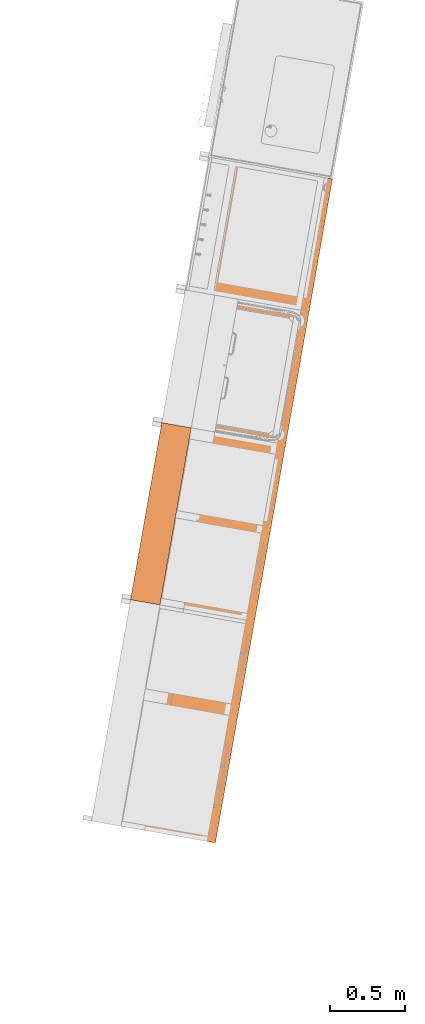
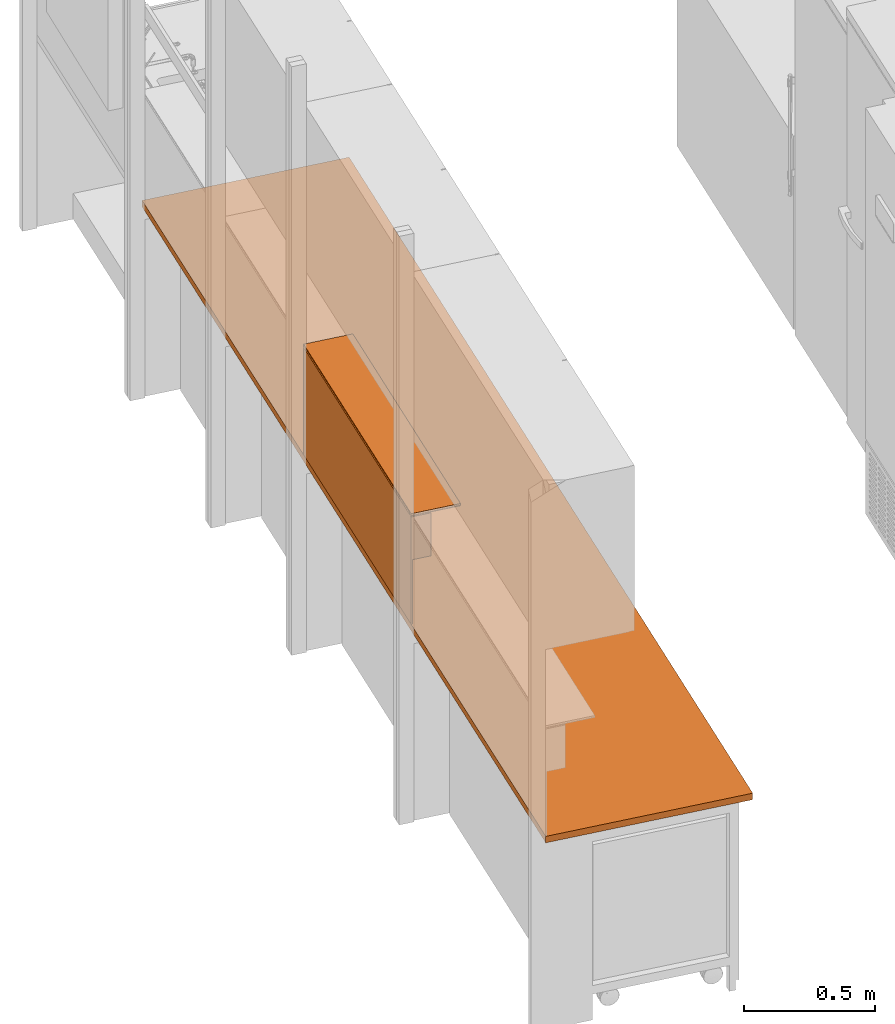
# One storey, part 13 of 43: 2 proxies.
"""IFC2X3 building model written with IfcOpenShell, lengths in metres."""

from ifc_helpers import new_model, entity, si_unit, converted_unit, derived_unit, direction, frame, frame_2d, origin, origin_2d_with_axis, place, context, subcontext, project, spatial, polyline, circle_curve, parameter, trimmed, segment, composite_curve, rectangle, outline, extrude, source, transform, mapped, material, material_list, type_object, type_shapes, element, save


model = new_model("IFC2X3")

# Units and contexts
model_context = context("Model", 3, precision=1e-05, world=origin(), true_north=direction((6.12303176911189e-17, 1.0)))
body_context = subcontext(model_context, "Body", "Model", "MODEL_VIEW")
ifc_project = project(units=[si_unit("LENGTHUNIT", "METRE"), si_unit("AREAUNIT", "SQUARE_METRE"), si_unit("VOLUMEUNIT", "CUBIC_METRE"), converted_unit("PLANEANGLEUNIT", "DEGREE", entity("IfcRatioMeasure", 0.0174532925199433), si_unit("PLANEANGLEUNIT", "RADIAN"), dimensions=[0, 0, 0, 0, 0, 0, 0]), si_unit("MASSUNIT", "GRAM", prefix="KILO"), derived_unit("MASSDENSITYUNIT", [(si_unit("MASSUNIT", "GRAM", prefix="KILO"), 1), (si_unit("LENGTHUNIT", "METRE"), -3)]), derived_unit("MOMENTOFINERTIAUNIT", [(si_unit("LENGTHUNIT", "METRE"), 4)]), si_unit("TIMEUNIT", "SECOND"), si_unit("FREQUENCYUNIT", "HERTZ"), si_unit("THERMODYNAMICTEMPERATUREUNIT", "DEGREE_CELSIUS"), derived_unit("THERMALTRANSMITTANCEUNIT", [(si_unit("MASSUNIT", "GRAM", prefix="KILO"), 1), (si_unit("THERMODYNAMICTEMPERATUREUNIT", "KELVIN"), -1), (si_unit("TIMEUNIT", "SECOND"), -3)]), derived_unit("VOLUMETRICFLOWRATEUNIT", [(si_unit("LENGTHUNIT", "METRE"), 3), (si_unit("TIMEUNIT", "SECOND"), -1)]), si_unit("ELECTRICCURRENTUNIT", "AMPERE"), si_unit("ELECTRICVOLTAGEUNIT", "VOLT"), si_unit("POWERUNIT", "WATT"), si_unit("FORCEUNIT", "NEWTON", prefix="KILO"), si_unit("ILLUMINANCEUNIT", "LUX"), si_unit("LUMINOUSFLUXUNIT", "LUMEN"), si_unit("LUMINOUSINTENSITYUNIT", "CANDELA"), derived_unit("USERDEFINED", [(si_unit("MASSUNIT", "GRAM", prefix="KILO"), -1), (si_unit("LENGTHUNIT", "METRE"), -2), (si_unit("TIMEUNIT", "SECOND"), 3), (si_unit("LUMINOUSFLUXUNIT", "LUMEN"), 1)]), derived_unit("LINEARVELOCITYUNIT", [(si_unit("LENGTHUNIT", "METRE"), 1), (si_unit("TIMEUNIT", "SECOND"), -1)]), si_unit("PRESSUREUNIT", "PASCAL"), derived_unit("USERDEFINED", [(si_unit("LENGTHUNIT", "METRE"), -2), (si_unit("MASSUNIT", "GRAM", prefix="KILO"), 1), (si_unit("TIMEUNIT", "SECOND"), -2)]), derived_unit("LINEARFORCEUNIT", [(si_unit("MASSUNIT", "GRAM", prefix="KILO"), 1), (si_unit("LENGTHUNIT", "METRE"), 1), (si_unit("TIMEUNIT", "SECOND"), -2), (si_unit("LENGTHUNIT", "METRE"), -1)]), derived_unit("PLANARFORCEUNIT", [(si_unit("MASSUNIT", "GRAM", prefix="KILO"), 1), (si_unit("LENGTHUNIT", "METRE"), 1), (si_unit("TIMEUNIT", "SECOND"), -2), (si_unit("LENGTHUNIT", "METRE"), -2)])], contexts=[model_context])

# Site, building, storey
site_placement = place(None, origin())
site = spatial("IfcSite", under=ifc_project, at=site_placement, Name="Default", CompositionType="ELEMENT")
building_placement = place(site_placement, origin())
building = spatial("IfcBuilding", under=site, at=building_placement, CompositionType="ELEMENT")
storey_placement = place(building_placement, frame((0.0, 0.0, 3.0)))
storey = spatial("IfcBuildingStorey", under=building, at=storey_placement, Name="01 OG", CompositionType="ELEMENT", Elevation=3.0)

# Proxies
ifc_material_1 = material(Name="dh_Weiß")
ifc_material_2 = material(Name="dh_Glas WHS")
ifc_material_3 = material(Name="dh_Blau")
ifc_material_list_1 = material_list([ifc_material_1, ifc_material_2, ifc_material_3])
ifc_material_list_2 = material_list([ifc_material_2, ifc_material_3, ifc_material_1])
building_element_proxy_type_1 = type_object("IfcBuildingElementProxyType", Name="dh_Medienwand WHA:120 Stehtisch", PredefinedType="NOTDEFINED", material=ifc_material_list_2)
shared_shape_1 = source(origin(), body_context, "Body", "SweptSolid", [
    extrude(outline(composite_curve([segment(trimmed(circle_curve(frame_2d((0.0, 0.0), x_axis=(-1.0, 0.0)), 0.01), [parameter(0.0)], [parameter(180.0)], True, "PARAMETER"), True, "CONTINUOUS"), segment(polyline([(0.01, 0.0), (-0.01, 0.0)]), True, "CONTINUOUS")], self_intersect=False)), frame((-0.589999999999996, 0.1, 1.40999999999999), z_axis=(0.0, -1.0, 0.0), x_axis=(1.0, 0.0, 0.0)), (0.0, 0.0, -1.0), 0.2),
    extrude(outline(composite_curve([segment(trimmed(circle_curve(origin_2d_with_axis(), 0.00999999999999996), [parameter(0.0)], [parameter(180.0)], True, "PARAMETER"), True, "CONTINUOUS"), segment(polyline([(-0.0099999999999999, 0.0), (0.0099999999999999, 0.0)]), True, "CONTINUOUS")], self_intersect=False)), frame((0.590000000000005, 0.1, 1.40999999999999), z_axis=(0.0, 1.0, 0.0), x_axis=(1.0, 0.0, 0.0)), (0.0, 0.0, 1.0), 0.2),
    extrude(rectangle(XDim=1.2, YDim=0.2, at=origin_2d_with_axis()), frame((0.0, 0.2, 1.40999999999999), z_axis=(0.0, 0.0, 1.0), x_axis=(-1.0, 0.0, 0.0)), (0.0, 0.0, 1.0), 0.00499999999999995),
    extrude(rectangle(XDim=0.00500000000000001, YDim=1.2, at=frame_2d((-3.38271077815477e-17, 0.0), x_axis=(1.0, 0.0))), frame((0.0, 0.2975, 0.900000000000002), z_axis=(0.0, 0.0, 1.0), x_axis=(0.0, 1.0, 0.0)), (0.0, 0.0, 1.0), 0.299999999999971),
    extrude(rectangle(XDim=1.2, YDim=0.08, at=frame_2d((0.0, 3.46944695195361e-17), x_axis=(1.0, 0.0))), frame((0.0, 0.26, 1.20000000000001), z_axis=(0.0, 0.0, 1.0), x_axis=(-1.0, 0.0, 0.0)), (0.0, 0.0, 1.0), 0.199999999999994),
])
type_shapes(building_element_proxy_type_1, [shared_shape_1])
proxy_1_placement = place(storey_placement, frame((22.8045391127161, 9.14177773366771, 0.0), z_axis=(0.0, 0.0, 1.0), x_axis=(0.173648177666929, 0.984807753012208, 0.0)))
element("IfcBuildingElementProxy", 1, at=proxy_1_placement, inside=storey, type_object=building_element_proxy_type_1, material=ifc_material_list_1, Name="dh_Medienwand WHA:120 Stehtisch", ObjectType="dh_Medienwand WHA:120 Stehtisch", context=body_context, shape_type="MappedRepresentation", body=[
    mapped(shared_shape_1, transform((0.0, 0.0, 0.0), scale=1.0)),
])
ifc_material_4 = material(Name="Arbeitsplatte mit fester Oberfläche")
ifc_material_5 = material(Name="Phenolharz")
ifc_material_list_3 = material_list([ifc_material_4, ifc_material_5])
ifc_material_list_4 = material_list([ifc_material_5, ifc_material_4])
building_element_proxy_type_2 = type_object("IfcBuildingElementProxyType", Name="dh_Tischplatte PH:TP PH", PredefinedType="NOTDEFINED", material=ifc_material_list_4)
shared_shape_2 = source(origin(), body_context, "Body", "SweptSolid", [
    extrude(rectangle(XDim=4.50000000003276, YDim=0.840000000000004, at=origin_2d_with_axis()), frame((0.0447003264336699, -0.420000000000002, 0.871999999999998), z_axis=(0.0, 0.0, 1.0), x_axis=(-1.0, 0.0, 0.0)), (0.0, 0.0, 1.0), 0.0260000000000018),
    extrude(rectangle(XDim=4.50000000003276, YDim=0.840000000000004, at=origin_2d_with_axis()), frame((0.0447003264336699, -0.420000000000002, 0.869999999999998), z_axis=(0.0, 0.0, 1.0), x_axis=(-1.0, 0.0, 0.0)), (0.0, 0.0, 1.0), 0.00199999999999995),
    extrude(rectangle(XDim=4.50000000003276, YDim=0.840000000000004, at=origin_2d_with_axis()), frame((0.0447003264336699, -0.420000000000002, 0.898), z_axis=(0.0, 0.0, 1.0), x_axis=(-1.0, 0.0, 0.0)), (0.0, 0.0, 1.0), 0.00200000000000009),
])
type_shapes(building_element_proxy_type_2, [shared_shape_2])
proxy_2_placement = place(storey_placement, frame((22.5273818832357, 9.29757212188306, 0.0), z_axis=(0.0, 0.0, 1.0), x_axis=(0.173648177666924, 0.984807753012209, 0.0)))
element("IfcBuildingElementProxy", 2, at=proxy_2_placement, inside=storey, type_object=building_element_proxy_type_2, material=ifc_material_list_3, Name="dh_Tischplatte PH:TP PH", ObjectType="dh_Tischplatte PH:TP PH", context=body_context, shape_type="MappedRepresentation", body=[
    mapped(shared_shape_2, transform((0.0, 0.0, 0.0), scale=1.0)),
])

save(model, "model.ifc")
